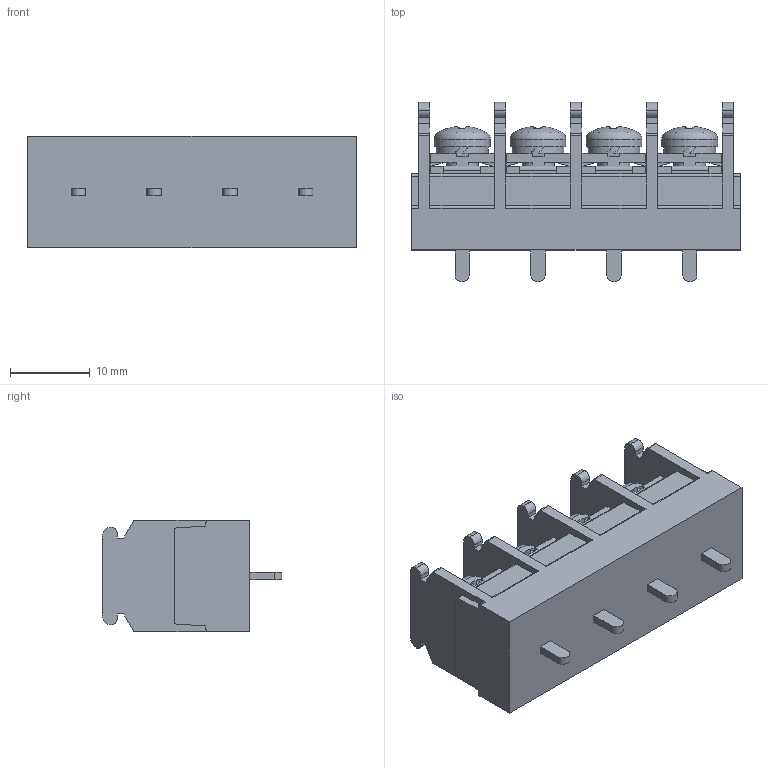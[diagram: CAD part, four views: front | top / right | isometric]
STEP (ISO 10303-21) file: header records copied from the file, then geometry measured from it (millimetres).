
FILE_DESCRIPTION(/* description */ ('Alibre Inc.'),/* implementation_level */ '2;1');
FILE_NAME(/* name */ 'export-B9BF96F2-592A-4B62-888E-47554E24FA7F',/* time_stamp */ '2021-02-13T13:58:13+09:00',/* author */ (''),/* organization */ (''),/* preprocessor_version */ 'ST-DEVELOPER v17',/* originating_system */ 'Alibre',/* authorisation */ '');
FILE_SCHEMA (('CONFIG_CONTROL_DESIGN'));
Length unit declared in the file: millimetre
Bounding box: 41.2 x 22.5 x 14 mm (x, y, z)
Volume: 7003.8 mm3; surface area: 4917.4 mm2
Topology: 1 solids, 21 shells, 876 faces, 2414 edges, 1592 vertices
Faces by surface type: plane 644, bspline 104, cylinder 96, cone 20, torus 8, sphere 4
Full cylindrical faces by diameter (mm): 4 x8, 7 x4
Entity records: 26699 total; most frequent: CARTESIAN_POINT 5814, ORIENTED_EDGE 4764, DIRECTION 3270, EDGE_CURVE 2382, VECTOR 1766, LINE 1766, VERTEX_POINT 1584, AXIS2_PLACEMENT_3D 1056
